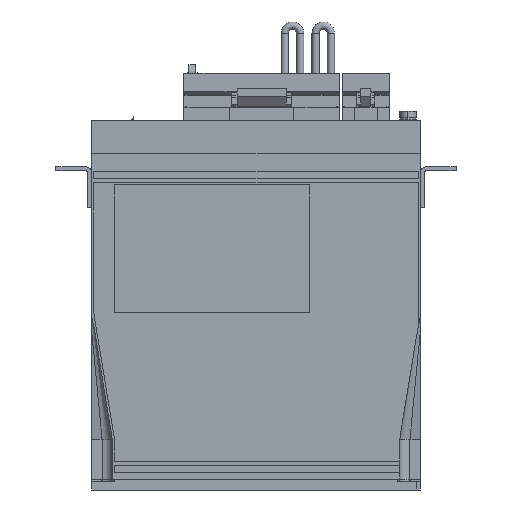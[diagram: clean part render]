
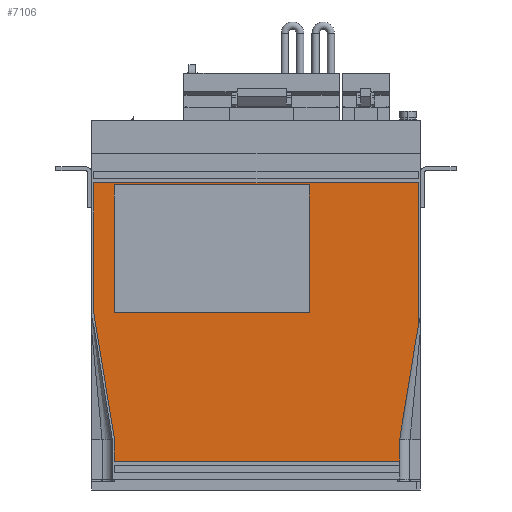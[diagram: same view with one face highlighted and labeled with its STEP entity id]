
A CAD part, left-side view. The second image highlights one B-rep face of the part: STEP entity #7106.
In plain terms, the highlighted planar face has unit normal (-1, 0, 0).
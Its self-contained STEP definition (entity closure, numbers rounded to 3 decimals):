
#4283 = VERTEX_POINT ( 'NONE', #25641 ) ;
#4285 = EDGE_CURVE ( 'NONE', #50393, #4283, #25635, .T. ) ;
#4300 = EDGE_CURVE ( 'NONE', #50719, #4306, #25705, .T. ) ;
#4306 = VERTEX_POINT ( 'NONE', #25690 ) ;
#7068 = VERTEX_POINT ( 'NONE', #29682 ) ;
#7070 = EDGE_CURVE ( 'NONE', #7086, #7068, #29681, .T. ) ;
#7076 = EDGE_CURVE ( 'NONE', #7077, #4306, #29744, .T. ) ;
#7077 = VERTEX_POINT ( 'NONE', #29740 ) ;
#7086 = VERTEX_POINT ( 'NONE', #29726 ) ;
#7088 = EDGE_CURVE ( 'NONE', #4283, #7086, #29724, .T. ) ;
#7103 = ORIENTED_EDGE ( 'NONE', *, *, #7076, .T. ) ;
#7104 = ORIENTED_EDGE ( 'NONE', *, *, #4300, .F. ) ;
#7106 = ADVANCED_FACE ( 'NONE', ( #29772, #29771 ), #29770, .T. ) ;
#7107 = ORIENTED_EDGE ( 'NONE', *, *, #7108, .F. ) ;
#7108 = EDGE_CURVE ( 'NONE', #7109, #7110, #29765, .T. ) ;
#7109 = VERTEX_POINT ( 'NONE', #29761 ) ;
#7110 = VERTEX_POINT ( 'NONE', #29760 ) ;
#7111 = ORIENTED_EDGE ( 'NONE', *, *, #7112, .F. ) ;
#7112 = EDGE_CURVE ( 'NONE', #7113, #7109, #29759, .T. ) ;
#7113 = VERTEX_POINT ( 'NONE', #29755 ) ;
#7114 = ORIENTED_EDGE ( 'NONE', *, *, #7115, .F. ) ;
#7115 = EDGE_CURVE ( 'NONE', #7116, #7113, #29754, .T. ) ;
#7116 = VERTEX_POINT ( 'NONE', #29750 ) ;
#7117 = ORIENTED_EDGE ( 'NONE', *, *, #7175, .F. ) ;
#7121 = EDGE_CURVE ( 'NONE', #7122, #7140, #29816, .T. ) ;
#7122 = VERTEX_POINT ( 'NONE', #29812 ) ;
#7130 = EDGE_CURVE ( 'NONE', #7068, #7122, #29799, .T. ) ;
#7131 = EDGE_LOOP ( 'NONE', ( #7107, #7111, #7114, #7117 ) ) ;
#7139 = EDGE_CURVE ( 'NONE', #7140, #7077, #29785, .T. ) ;
#7140 = VERTEX_POINT ( 'NONE', #29848 ) ;
#7175 = EDGE_CURVE ( 'NONE', #7110, #7116, #29914, .T. ) ;
#7176 = EDGE_LOOP ( 'NONE', ( #7177, #7178, #7179, #7180, #7181, #7182, #7183, #7103, #7104 ) ) ;
#7177 = ORIENTED_EDGE ( 'NONE', *, *, #50566, .T. ) ;
#7178 = ORIENTED_EDGE ( 'NONE', *, *, #4285, .T. ) ;
#7179 = ORIENTED_EDGE ( 'NONE', *, *, #7088, .T. ) ;
#7180 = ORIENTED_EDGE ( 'NONE', *, *, #7070, .T. ) ;
#7181 = ORIENTED_EDGE ( 'NONE', *, *, #7130, .T. ) ;
#7182 = ORIENTED_EDGE ( 'NONE', *, *, #7121, .T. ) ;
#7183 = ORIENTED_EDGE ( 'NONE', *, *, #7139, .T. ) ;
#25635 = B_SPLINE_CURVE_WITH_KNOTS ( 'NONE', 3,
 ( #25663, #25661, #25660, #25659 ),
 .UNSPECIFIED., .F., .F.,
 ( 4, 4 ),
 ( 0., 0.004 ),
 .UNSPECIFIED. ) ;
#25641 = CARTESIAN_POINT ( 'NONE',  ( -5.7, -154., 79.394 ) ) ;
#25659 = CARTESIAN_POINT ( 'NONE',  ( -5.7, -154., 79.394 ) ) ;
#25660 = CARTESIAN_POINT ( 'NONE',  ( -5.7, -153.716, 78.038 ) ) ;
#25661 = CARTESIAN_POINT ( 'NONE',  ( -5.7, -153.473, 76.674 ) ) ;
#25663 = CARTESIAN_POINT ( 'NONE',  ( -5.7, -153.25, 75.306 ) ) ;
#25690 = CARTESIAN_POINT ( 'NONE',  ( -5.7, -145., 14.1 ) ) ;
#25702 = DIRECTION ( 'NONE',  ( 0., 0., -1. ) ) ;
#25703 = VECTOR ( 'NONE', #25702, 1000. ) ;
#25704 = CARTESIAN_POINT ( 'NONE',  ( -5.7, -145., 24.8 ) ) ;
#25705 = LINE ( 'NONE', #25704, #25703 ) ;
#29678 = DIRECTION ( 'NONE',  ( 0., 1., 0. ) ) ;
#29679 = VECTOR ( 'NONE', #29678, 1000. ) ;
#29680 = CARTESIAN_POINT ( 'NONE',  ( -5.7, 4., 149.6 ) ) ;
#29681 = LINE ( 'NONE', #29680, #29679 ) ;
#29682 = CARTESIAN_POINT ( 'NONE',  ( -5.7, 4., 149.6 ) ) ;
#29721 = DIRECTION ( 'NONE',  ( 0., 0., 1. ) ) ;
#29722 = VECTOR ( 'NONE', #29721, 1000. ) ;
#29723 = CARTESIAN_POINT ( 'NONE',  ( -5.7, -154., 14.1 ) ) ;
#29724 = LINE ( 'NONE', #29723, #29722 ) ;
#29726 = CARTESIAN_POINT ( 'NONE',  ( -5.7, -154., 149.6 ) ) ;
#29740 = CARTESIAN_POINT ( 'NONE',  ( -5.7, -6., 14.1 ) ) ;
#29741 = DIRECTION ( 'NONE',  ( 0., -1., 0. ) ) ;
#29742 = VECTOR ( 'NONE', #29741, 1000. ) ;
#29743 = CARTESIAN_POINT ( 'NONE',  ( -5.7, -6., 14.1 ) ) ;
#29744 = LINE ( 'NONE', #29743, #29742 ) ;
#29750 = CARTESIAN_POINT ( 'NONE',  ( -5.7, -101., 148.6 ) ) ;
#29751 = DIRECTION ( 'NONE',  ( 0., 1., 0. ) ) ;
#29752 = VECTOR ( 'NONE', #29751, 1000. ) ;
#29753 = CARTESIAN_POINT ( 'NONE',  ( -5.7, -154., 148.6 ) ) ;
#29754 = LINE ( 'NONE', #29753, #29752 ) ;
#29755 = CARTESIAN_POINT ( 'NONE',  ( -5.7, -6., 148.6 ) ) ;
#29756 = DIRECTION ( 'NONE',  ( 0., 0., -1. ) ) ;
#29757 = VECTOR ( 'NONE', #29756, 1000. ) ;
#29758 = CARTESIAN_POINT ( 'NONE',  ( -5.7, -6., 149.6 ) ) ;
#29759 = LINE ( 'NONE', #29758, #29757 ) ;
#29760 = CARTESIAN_POINT ( 'NONE',  ( -5.7, -101., 86.6 ) ) ;
#29761 = CARTESIAN_POINT ( 'NONE',  ( -5.7, -6., 86.6 ) ) ;
#29762 = DIRECTION ( 'NONE',  ( 0., -1., 0. ) ) ;
#29763 = VECTOR ( 'NONE', #29762, 1000. ) ;
#29764 = CARTESIAN_POINT ( 'NONE',  ( -5.7, -154., 86.6 ) ) ;
#29765 = LINE ( 'NONE', #29764, #29763 ) ;
#29766 = DIRECTION ( 'NONE',  ( 0., -1., 0. ) ) ;
#29767 = DIRECTION ( 'NONE',  ( -1., 0., 0. ) ) ;
#29768 = CARTESIAN_POINT ( 'NONE',  ( -5.7, -154., 149.6 ) ) ;
#29769 = AXIS2_PLACEMENT_3D ( 'NONE', #29768, #29767, #29766 ) ;
#29770 = PLANE ( 'NONE',  #29769 ) ;
#29771 = FACE_OUTER_BOUND ( 'NONE', #7176, .T. ) ;
#29772 = FACE_BOUND ( 'NONE', #7131, .T. ) ;
#29785 = LINE ( 'NONE', #29851, #29850 ) ;
#29796 = DIRECTION ( 'NONE',  ( 0., 0., -1. ) ) ;
#29797 = VECTOR ( 'NONE', #29796, 1000. ) ;
#29798 = CARTESIAN_POINT ( 'NONE',  ( -5.7, 4., 86.104 ) ) ;
#29799 = LINE ( 'NONE', #29798, #29797 ) ;
#29812 = CARTESIAN_POINT ( 'NONE',  ( -5.7, 4., 86.104 ) ) ;
#29813 = DIRECTION ( 'NONE',  ( 0., -0.161, -0.987 ) ) ;
#29814 = VECTOR ( 'NONE', #29813, 1000. ) ;
#29815 = CARTESIAN_POINT ( 'NONE',  ( -5.7, 4., 86.104 ) ) ;
#29816 = LINE ( 'NONE', #29815, #29814 ) ;
#29848 = CARTESIAN_POINT ( 'NONE',  ( -5.7, -6., 24.881 ) ) ;
#29849 = DIRECTION ( 'NONE',  ( 0., 0., -1. ) ) ;
#29850 = VECTOR ( 'NONE', #29849, 1000. ) ;
#29851 = CARTESIAN_POINT ( 'NONE',  ( -5.7, -6., 24.881 ) ) ;
#29911 = DIRECTION ( 'NONE',  ( 0., 0., 1. ) ) ;
#29912 = VECTOR ( 'NONE', #29911, 1000. ) ;
#29913 = CARTESIAN_POINT ( 'NONE',  ( -5.7, -101., 149.6 ) ) ;
#29914 = LINE ( 'NONE', #29913, #29912 ) ;
#50393 = VERTEX_POINT ( 'NONE', #59734 ) ;
#50566 = EDGE_CURVE ( 'NONE', #50719, #50393, #60006, .T. ) ;
#50719 = VERTEX_POINT ( 'NONE', #60316 ) ;
#59734 = CARTESIAN_POINT ( 'NONE',  ( -5.7, -153.25, 75.306 ) ) ;
#60003 = DIRECTION ( 'NONE',  ( 0., -0.161, 0.987 ) ) ;
#60004 = VECTOR ( 'NONE', #60003, 1000. ) ;
#60005 = CARTESIAN_POINT ( 'NONE',  ( -5.7, -145., 24.8 ) ) ;
#60006 = LINE ( 'NONE', #60005, #60004 ) ;
#60316 = CARTESIAN_POINT ( 'NONE',  ( -5.7, -145., 24.8 ) ) ;
